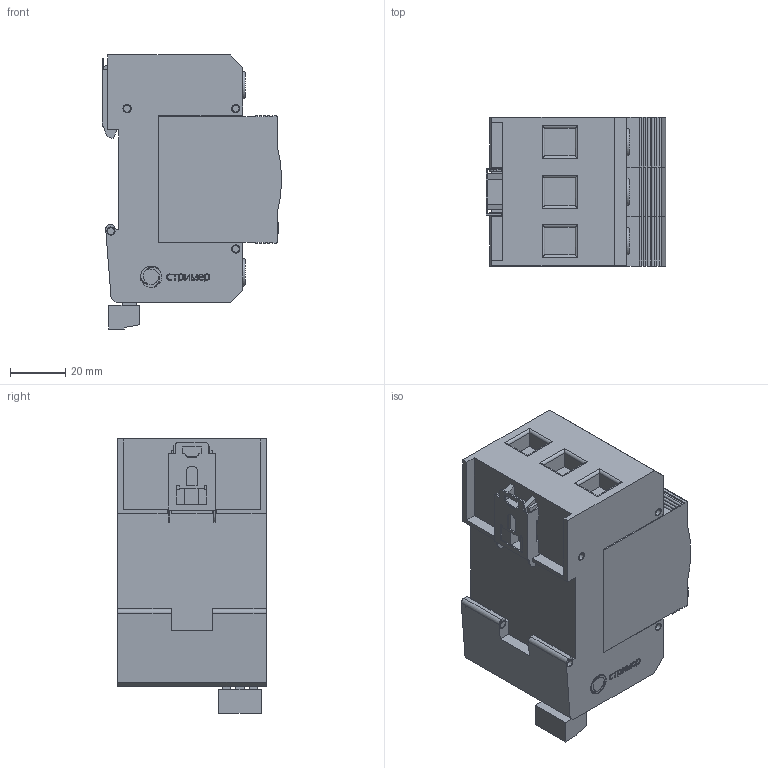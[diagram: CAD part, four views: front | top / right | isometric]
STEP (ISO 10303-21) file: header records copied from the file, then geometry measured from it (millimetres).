
FILE_DESCRIPTION(('TFLEX Exchange Step'),'2;1');
FILE_NAME('X2\041004400442\X0\.124_102.stp', '2022-08-30T14:21:03+03:00',('Ivan Berdigulov'),('Unknown organisation'),'TFLEX Exchange 2019.2','T-FLEX CAD','Unknown authorisation');
FILE_SCHEMA( ('AUTOMOTIVE_DESIGN { 1 0 10303 214 1 1 1 1 }') );
Length unit declared in the file: millimetre
Products named in the file (2): 0
Assembly tree (1 placements, depth 2):
  0
    0
Bounding box: 65.19 x 54.1 x 99.6 mm (x, y, z)
Volume: 253690.3 mm3; surface area: 54526.4 mm2
Topology: 44 solids, 44 shells, 681 faces, 1770 edges, 1202 vertices
Faces by surface type: plane 460, cylinder 121, bspline 90, torus 7, cone 3
Full cylindrical faces by diameter (mm): 1.6 x3, 2.5 x13, 3 x16, 4 x3
Entity records: 23467 total; most frequent: CARTESIAN_POINT 7131, ORIENTED_EDGE 3474, DIRECTION 2968, EDGE_CURVE 1737, VERTEX_POINT 1202, VECTOR 1180, LINE 1180, AXIS2_PLACEMENT_3D 894
